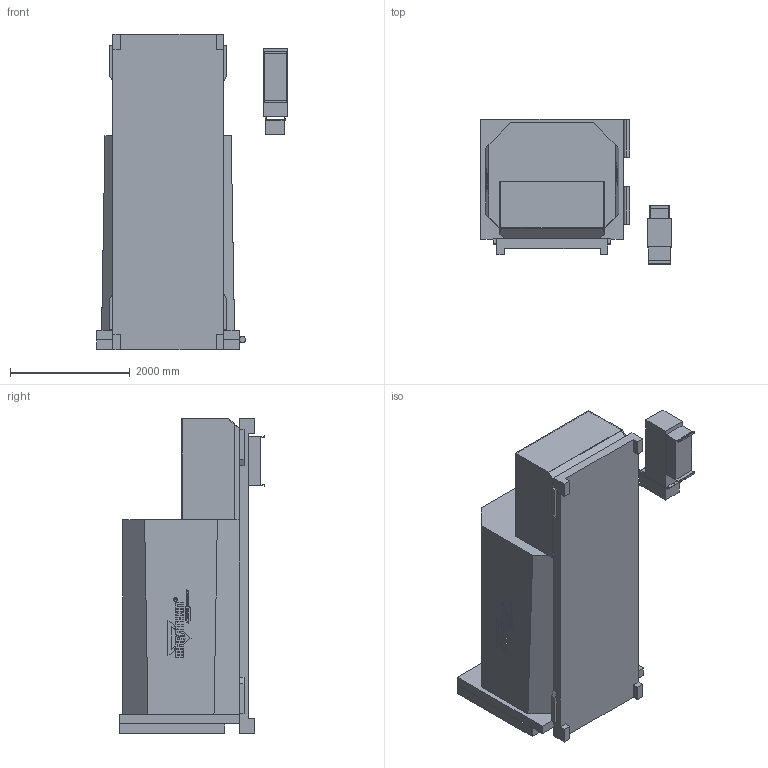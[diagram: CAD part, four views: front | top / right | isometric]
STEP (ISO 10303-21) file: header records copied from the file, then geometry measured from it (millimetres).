
FILE_DESCRIPTION((''),'2;1');
FILE_NAME('60979_ASM','2018-10-03T19:46:28',('10048000'),(''),'CREO PARAMETRIC BY PTC INC, 2017110','CREO PARAMETRIC BY PTC INC, 2017110','');
FILE_SCHEMA(('CONFIG_CONTROL_DESIGN'));
Products named in the file (3): STRUCTURE_60979; POWER_PACK_60979; 60979_ASM
Assembly tree (2 placements, depth 2):
  60979_ASM
    STRUCTURE_60979
    POWER_PACK_60979
Bounding box: 3187.7 x 2433.62 x 5278.44 mm (x, y, z)
Volume: 16107962322.2 mm3; surface area: 74651780.9 mm2
Topology: 5 solids, 5 shells, 3000 faces, 8271 edges, 5511 vertices
Faces by surface type: plane 2774, cylinder 226
Entity records: 93947 total; most frequent: CARTESIAN_POINT 16787, ORIENTED_EDGE 16542, DIRECTION 14733, EDGE_CURVE 8271, VECTOR 7819, LINE 7819, VERTEX_POINT 5511, AXIS2_PLACEMENT_3D 3457
